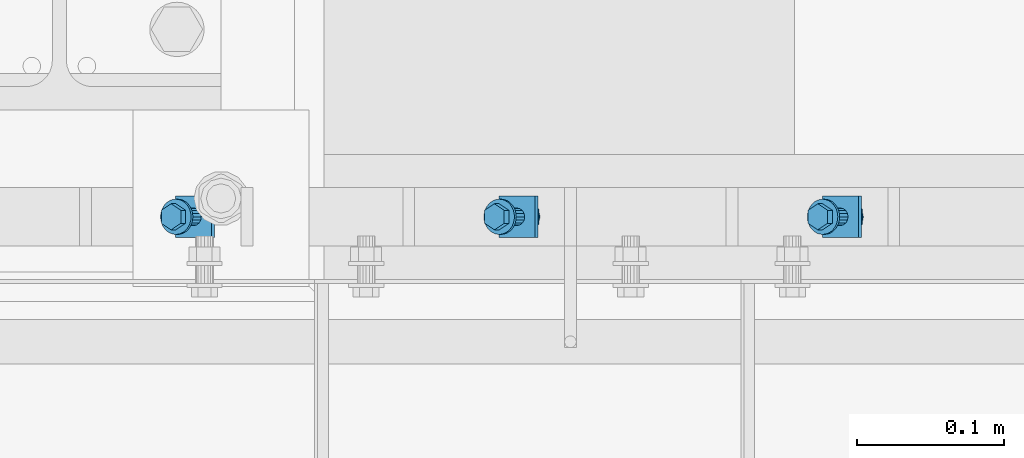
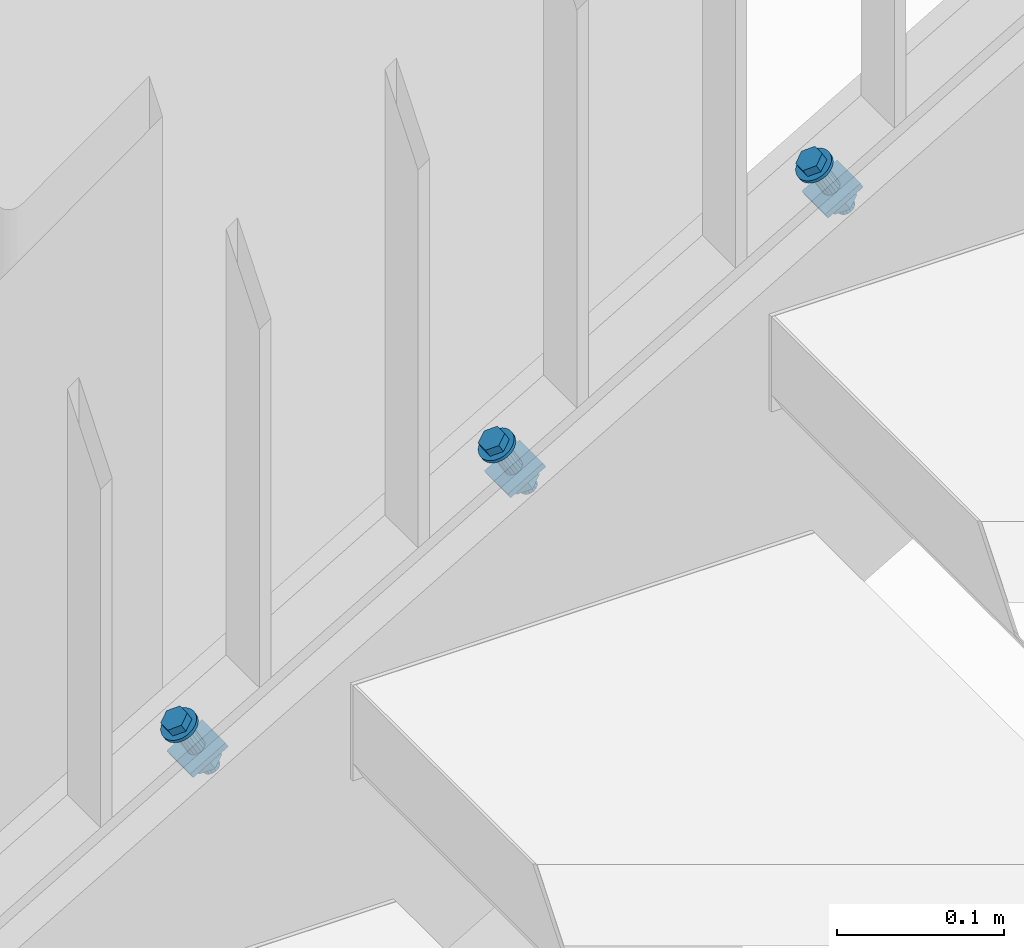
# One storey, part 58 of 145: 3 mechanical fasteners.
"""IFC2X3 building model written with IfcOpenShell, lengths in millimetres."""

from ifc_helpers import new_model, entity, si_unit, converted_unit, origin_with_axes, place, context, project, spatial, faceted_brep, element, save


model = new_model("IFC2X3")

# Units and contexts
model_context = context("Model", 3, precision=1e-09, world=origin_with_axes())
ifc_project = project(units=[si_unit("LENGTHUNIT", "METRE", prefix="MILLI"), si_unit("AREAUNIT", "SQUARE_METRE"), si_unit("VOLUMEUNIT", "CUBIC_METRE"), converted_unit("PLANEANGLEUNIT", "DEGREE", entity("IfcPlaneAngleMeasure", 0.01745329), si_unit("PLANEANGLEUNIT", "RADIAN"), dimensions=[0, 0, 0, 0, 0, 0, 0])], contexts=[model_context])

# Site, building, storey
site_placement = place(None, origin_with_axes())
site = spatial("IfcSite", under=ifc_project, at=site_placement, Name="BZ1 Grund- und Mittelschule 85716 Unterschlei?heim", CompositionType="ELEMENT")
building_placement = place(site_placement, origin_with_axes())
building = spatial("IfcBuilding", under=site, at=building_placement, Name="Struktur 1", CompositionType="ELEMENT")
storey_placement = place(building_placement, origin_with_axes())
storey = spatial("IfcBuildingStorey", under=building, at=storey_placement, Name="Default Storey", CompositionType="ELEMENT", Elevation=0.0)

# Mechanical fasteners
mechanical_fastener_1_placement = place(None, origin_with_axes())
element("IfcMechanicalFastener", 1, at=mechanical_fastener_1_placement, inside=storey, ObjectType="-", NominalDiameter=12.0, NominalLength=45.0, context=model_context, shape_type="Brep", body=[
    faceted_brep([(17140.949497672, -1877.502, 14.921854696), (17139.692769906, -1877.502, 17.083019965), (17139.892095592, -1875.160916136, 17.198928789), (17141.148823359, -1875.160916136, 15.03776352), (17140.482412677, -1872.909798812, 17.542200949), (17141.739140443, -1872.909798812, 15.38103568), (17141.441035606, -1870.835157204, 18.09964469), (17142.697763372, -1870.835157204, 15.938479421), (17142.731125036, -1869.016718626, 18.84983776), (17143.987852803, -1869.016718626, 16.688672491), (17144.303103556, -1867.524364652, 19.763950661), (17145.559831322, -1867.524364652, 17.602785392), (17146.096560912, -1866.41544561, 20.806854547), (17147.353288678, -1866.41544561, 18.645689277), (17148.042575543, -1865.732576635, 21.938471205), (17149.299303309, -1865.732576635, 19.777305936), (17150.066363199, -1865.502, 23.115313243), (17151.323090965, -1865.502, 20.954147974), (17152.090150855, -1865.732576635, 24.292155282), (17153.346878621, -1865.732576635, 22.130990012), (17154.036165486, -1866.41544561, 25.42377194), (17155.292893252, -1866.41544561, 23.262606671), (17155.829622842, -1867.524364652, 26.466675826), (17157.086350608, -1867.524364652, 24.305510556), (17157.401601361, -1869.016718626, 27.380788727), (17158.658329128, -1869.016718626, 25.219623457), (17158.691690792, -1870.835157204, 28.130981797), (17159.948418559, -1870.835157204, 25.969816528), (17159.650313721, -1872.909798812, 28.688425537), (17160.907041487, -1872.909798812, 26.527260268), (17160.240630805, -1875.160916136, 29.031697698), (17161.497358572, -1875.160916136, 26.870532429), (17160.439956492, -1877.502, 29.147606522), (17161.696684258, -1877.502, 26.986441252), (17160.240630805, -1879.843083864, 29.031697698), (17161.497358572, -1879.843083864, 26.870532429), (17159.650313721, -1882.094201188, 28.688425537), (17160.907041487, -1882.094201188, 26.527260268), (17158.691690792, -1884.168842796, 28.130981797), (17159.948418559, -1884.168842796, 25.969816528), (17157.401601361, -1885.987281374, 27.380788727), (17158.658329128, -1885.987281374, 25.219623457), (17155.829622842, -1887.479635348, 26.466675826), (17157.086350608, -1887.479635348, 24.305510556), (17154.036165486, -1888.58855439, 25.42377194), (17155.292893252, -1888.58855439, 23.262606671), (17152.090150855, -1889.271423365, 24.292155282), (17153.346878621, -1889.271423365, 22.130990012), (17150.066363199, -1889.502, 23.115313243), (17151.323090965, -1889.502, 20.954147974), (17148.042575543, -1889.271423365, 21.938471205), (17149.299303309, -1889.271423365, 19.777305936), (17146.096560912, -1888.58855439, 20.806854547), (17147.353288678, -1888.58855439, 18.645689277), (17144.303103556, -1887.479635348, 19.763950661), (17145.559831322, -1887.479635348, 17.602785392), (17142.731125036, -1885.987281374, 18.84983776), (17143.987852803, -1885.987281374, 16.688672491), (17141.441035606, -1884.168842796, 18.09964469), (17142.697763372, -1884.168842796, 15.938479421), (17140.482412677, -1882.094201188, 17.542200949), (17141.739140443, -1882.094201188, 15.38103568), (17139.892095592, -1879.843083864, 17.198928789), (17141.148823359, -1879.843083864, 15.03776352)], [[[0, 1, 2, 3]], [[3, 2, 4, 5]], [[5, 4, 6, 7]], [[7, 6, 8, 9]], [[9, 8, 10, 11]], [[11, 10, 12, 13]], [[13, 12, 14, 15]], [[15, 14, 16, 17]], [[17, 16, 18, 19]], [[19, 18, 20, 21]], [[21, 20, 22, 23]], [[23, 22, 24, 25]], [[25, 24, 26, 27]], [[27, 26, 28, 29]], [[29, 28, 30, 31]], [[31, 30, 32, 33]], [[33, 32, 34, 35]], [[35, 34, 36, 37]], [[37, 36, 38, 39]], [[39, 38, 40, 41]], [[41, 40, 42, 43]], [[43, 42, 44, 45]], [[45, 44, 46, 47]], [[47, 46, 48, 49]], [[49, 48, 50, 51]], [[51, 50, 52, 53]], [[53, 52, 54, 55]], [[55, 54, 56, 57]], [[57, 56, 58, 59]], [[59, 58, 60, 61]], [[61, 60, 62, 63]], [[63, 62, 1, 0]], [[2, 1, 62, 60, 58, 56, 54, 52, 50, 48, 46, 44, 42, 40, 38, 36, 34, 32, 30, 28, 26, 24, 22, 20, 18, 16, 14, 12, 10, 8, 6, 4]], [[63, 0, 3, 5, 7, 9, 11, 13, 15, 17, 19, 21, 23, 25, 27, 29, 31, 33, 35, 37, 39, 41, 43, 45, 47, 49, 51, 53, 55, 57, 59, 61]]]),
    faceted_brep([(17153.500891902, -1873.0595, 32.515921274), (17156.718114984, -1873.0595, 26.983338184), (17150.066363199, -1868.617, 23.115313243), (17146.849140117, -1868.617, 28.647896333), (17143.414611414, -1873.0595, 19.247288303), (17140.197388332, -1873.0595, 24.779871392), (17143.414611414, -1881.9445, 19.247288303), (17140.197388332, -1881.9445, 24.779871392), (17150.066363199, -1886.387, 23.115313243), (17146.849140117, -1886.387, 28.647896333), (17156.718114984, -1881.9445, 26.983338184), (17153.500891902, -1881.9445, 32.515921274)], [[[0, 1, 2, 3]], [[3, 2, 4, 5]], [[5, 4, 6, 7]], [[7, 6, 8, 9]], [[9, 8, 10, 11]], [[11, 10, 1, 0]], [[3, 5, 7, 9, 11, 0]], [[2, 1, 10, 8, 6, 4]]]),
    faceted_brep([(17157.036056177, -1877.502, -0.806063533), (17146.136294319, -1877.502, 17.938001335), (17146.531115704, -1875.205899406, 18.167591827), (17157.430877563, -1875.205899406, -0.57647304), (17147.655471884, -1873.259359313, 18.821410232), (17158.555233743, -1873.259359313, 0.077345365), (17149.338189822, -1871.958722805, 19.799918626), (17160.23795168, -1871.958722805, 1.055853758), (17151.323090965, -1871.502, 20.954147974), (17162.222852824, -1871.502, 2.210083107), (17153.307992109, -1871.958722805, 22.108377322), (17164.207753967, -1871.958722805, 3.364312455), (17154.990710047, -1873.259359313, 23.086885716), (17165.890471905, -1873.259359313, 4.342820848), (17156.115066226, -1875.205899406, 23.740704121), (17167.014828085, -1875.205899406, 4.996639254), (17156.509887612, -1877.502, 23.970294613), (17167.40964947, -1877.502, 5.226229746), (17156.115066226, -1879.798100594, 23.740704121), (17167.014828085, -1879.798100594, 4.996639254), (17154.990710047, -1881.744640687, 23.086885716), (17165.890471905, -1881.744640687, 4.342820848), (17153.307992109, -1883.045277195, 22.108377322), (17164.207753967, -1883.045277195, 3.364312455), (17151.323090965, -1883.502, 20.954147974), (17162.222852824, -1883.502, 2.210083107), (17149.338189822, -1883.045277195, 19.799918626), (17160.23795168, -1883.045277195, 1.055853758), (17147.655471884, -1881.744640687, 18.821410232), (17158.555233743, -1881.744640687, 0.077345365), (17146.531115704, -1879.798100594, 18.167591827), (17157.430877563, -1879.798100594, -0.57647304)], [[[0, 1, 2, 3]], [[3, 2, 4, 5]], [[5, 4, 6, 7]], [[7, 6, 8, 9]], [[9, 8, 10, 11]], [[11, 10, 12, 13]], [[13, 12, 14, 15]], [[15, 14, 16, 17]], [[17, 16, 18, 19]], [[19, 18, 20, 21]], [[21, 20, 22, 23]], [[23, 22, 24, 25]], [[25, 24, 26, 27]], [[27, 26, 28, 29]], [[29, 28, 30, 31]], [[31, 30, 1, 0]], [[2, 1, 30, 28, 26, 24, 22, 20, 18, 16, 14, 12, 10, 8, 6, 4]], [[31, 0, 3, 5, 7, 9, 11, 13, 15, 17, 19, 21, 23, 25, 27, 29]]]),
    faceted_brep([(17174.448249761, -1863.359864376, 9.319208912), (17176.459014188, -1863.359864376, 5.861344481), (17152.008220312, -1863.359864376, -8.35690713), (17149.997455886, -1863.359864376, -4.899042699), (17152.008220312, -1891.644135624, -8.35690713), (17149.997455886, -1891.644135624, -4.899042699), (17176.459014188, -1891.644135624, 5.861344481), (17174.448249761, -1891.644135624, 9.319208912)], [[[0, 1, 2, 3]], [[3, 2, 4, 5]], [[5, 4, 6, 7]], [[7, 6, 1, 0]], [[3, 5, 7, 0]], [[2, 1, 6, 4]]]),
    faceted_brep([(17172.131870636, -1872.227, 3.345090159), (17177.158781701, -1872.227, -5.299570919), (17169.260528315, -1866.952, -9.892442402), (17164.23361725, -1866.952, -1.247781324), (17161.36227493, -1872.227, -14.485313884), (17156.335363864, -1872.227, -5.840652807), (17161.36227493, -1882.777, -14.485313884), (17156.335363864, -1882.777, -5.840652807), (17169.260528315, -1888.052, -9.892442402), (17164.23361725, -1888.052, -1.247781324), (17177.158781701, -1882.777, -5.299570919), (17172.131870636, -1882.777, 3.345090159)], [[[0, 1, 2, 3]], [[3, 2, 4, 5]], [[5, 4, 6, 7]], [[7, 6, 8, 9]], [[9, 8, 10, 11]], [[11, 10, 1, 0]], [[3, 5, 7, 9, 11, 0]], [[2, 1, 10, 8, 6, 4]]]),
    faceted_brep([(17167.500666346, -1877.502, -18.801808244), (17164.073731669, -1877.502, -12.908589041), (17164.468553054, -1875.205899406, -12.678998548), (17167.895487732, -1875.205899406, -18.572217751), (17165.592909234, -1873.259359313, -12.025180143), (17169.019843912, -1873.259359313, -17.918399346), (17167.275627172, -1871.958722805, -11.04667175), (17170.702561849, -1871.958722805, -16.939890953), (17169.260528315, -1871.502, -9.892442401), (17172.687462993, -1871.502, -15.785661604), (17171.245429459, -1871.958722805, -8.738213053), (17174.672364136, -1871.958722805, -14.631432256), (17172.928147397, -1873.259359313, -7.75970466), (17176.355082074, -1873.259359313, -13.652923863), (17174.052503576, -1875.205899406, -7.105886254), (17177.479438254, -1875.205899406, -12.999105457), (17174.447324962, -1877.502, -6.876295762), (17177.874259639, -1877.502, -12.769514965), (17174.052503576, -1879.798100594, -7.105886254), (17177.479438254, -1879.798100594, -12.999105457), (17172.928147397, -1881.744640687, -7.75970466), (17176.355082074, -1881.744640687, -13.652923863), (17171.245429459, -1883.045277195, -8.738213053), (17174.672364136, -1883.045277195, -14.631432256), (17169.260528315, -1883.502, -9.892442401), (17172.687462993, -1883.502, -15.785661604), (17167.275627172, -1883.045277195, -11.04667175), (17170.702561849, -1883.045277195, -16.939890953), (17165.592909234, -1881.744640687, -12.025180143), (17169.019843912, -1881.744640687, -17.918399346), (17164.468553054, -1879.798100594, -12.678998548), (17167.895487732, -1879.798100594, -18.572217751)], [[[0, 1, 2, 3]], [[3, 2, 4, 5]], [[5, 4, 6, 7]], [[7, 6, 8, 9]], [[9, 8, 10, 11]], [[11, 10, 12, 13]], [[13, 12, 14, 15]], [[15, 14, 16, 17]], [[17, 16, 18, 19]], [[19, 18, 20, 21]], [[21, 20, 22, 23]], [[23, 22, 24, 25]], [[25, 24, 26, 27]], [[27, 26, 28, 29]], [[29, 28, 30, 31]], [[31, 30, 1, 0]], [[2, 1, 30, 28, 26, 24, 22, 20, 18, 16, 14, 12, 10, 8, 6, 4]], [[31, 0, 3, 5, 7, 9, 11, 13, 15, 17, 19, 21, 23, 25, 27, 29]]]),
])
mechanical_fastener_2_placement = place(None, origin_with_axes())
element("IfcMechanicalFastener", 2, at=mechanical_fastener_2_placement, inside=storey, ObjectType="-", NominalDiameter=12.0, NominalLength=45.0, context=model_context, shape_type="Brep", body=[
    faceted_brep([(17360.950000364, -1877.502, 142.853181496), (17359.693272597, -1877.502, 145.014346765), (17359.892598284, -1875.160916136, 145.130255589), (17361.14932605, -1875.160916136, 142.96909032), (17360.482915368, -1872.909798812, 145.473527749), (17361.739643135, -1872.909798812, 143.31236248), (17361.441538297, -1870.835157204, 146.03097149), (17362.698266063, -1870.835157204, 143.869806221), (17362.731627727, -1869.016718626, 146.78116456), (17363.988355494, -1869.016718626, 144.619999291), (17364.303606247, -1867.524364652, 147.695277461), (17365.560334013, -1867.524364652, 145.534112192), (17366.097063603, -1866.41544561, 148.738181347), (17367.353791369, -1866.41544561, 146.577016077), (17368.043078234, -1865.732576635, 149.869798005), (17369.299806, -1865.732576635, 147.708632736), (17370.06686589, -1865.502, 151.046640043), (17371.323593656, -1865.502, 148.885474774), (17372.090653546, -1865.732576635, 152.223482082), (17373.347381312, -1865.732576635, 150.062316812), (17374.036668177, -1866.41544561, 153.35509874), (17375.293395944, -1866.41544561, 151.193933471), (17375.830125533, -1867.524364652, 154.398002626), (17377.086853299, -1867.524364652, 152.236837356), (17377.402104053, -1869.016718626, 155.312115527), (17378.658831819, -1869.016718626, 153.150950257), (17378.692193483, -1870.835157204, 156.062308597), (17379.94892125, -1870.835157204, 153.901143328), (17379.650816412, -1872.909798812, 156.619752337), (17380.907544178, -1872.909798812, 154.458587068), (17380.241133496, -1875.160916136, 156.963024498), (17381.497861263, -1875.160916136, 154.801859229), (17380.440459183, -1877.502, 157.078933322), (17381.697186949, -1877.502, 154.917768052), (17380.241133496, -1879.843083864, 156.963024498), (17381.497861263, -1879.843083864, 154.801859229), (17379.650816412, -1882.094201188, 156.619752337), (17380.907544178, -1882.094201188, 154.458587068), (17378.692193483, -1884.168842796, 156.062308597), (17379.94892125, -1884.168842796, 153.901143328), (17377.402104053, -1885.987281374, 155.312115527), (17378.658831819, -1885.987281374, 153.150950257), (17375.830125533, -1887.479635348, 154.398002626), (17377.086853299, -1887.479635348, 152.236837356), (17374.036668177, -1888.58855439, 153.35509874), (17375.293395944, -1888.58855439, 151.193933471), (17372.090653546, -1889.271423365, 152.223482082), (17373.347381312, -1889.271423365, 150.062316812), (17370.06686589, -1889.502, 151.046640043), (17371.323593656, -1889.502, 148.885474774), (17368.043078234, -1889.271423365, 149.869798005), (17369.299806, -1889.271423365, 147.708632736), (17366.097063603, -1888.58855439, 148.738181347), (17367.353791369, -1888.58855439, 146.577016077), (17364.303606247, -1887.479635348, 147.695277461), (17365.560334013, -1887.479635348, 145.534112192), (17362.731627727, -1885.987281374, 146.78116456), (17363.988355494, -1885.987281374, 144.619999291), (17361.441538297, -1884.168842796, 146.03097149), (17362.698266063, -1884.168842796, 143.869806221), (17360.482915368, -1882.094201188, 145.473527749), (17361.739643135, -1882.094201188, 143.31236248), (17359.892598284, -1879.843083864, 145.130255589), (17361.14932605, -1879.843083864, 142.96909032)], [[[0, 1, 2, 3]], [[3, 2, 4, 5]], [[5, 4, 6, 7]], [[7, 6, 8, 9]], [[9, 8, 10, 11]], [[11, 10, 12, 13]], [[13, 12, 14, 15]], [[15, 14, 16, 17]], [[17, 16, 18, 19]], [[19, 18, 20, 21]], [[21, 20, 22, 23]], [[23, 22, 24, 25]], [[25, 24, 26, 27]], [[27, 26, 28, 29]], [[29, 28, 30, 31]], [[31, 30, 32, 33]], [[33, 32, 34, 35]], [[35, 34, 36, 37]], [[37, 36, 38, 39]], [[39, 38, 40, 41]], [[41, 40, 42, 43]], [[43, 42, 44, 45]], [[45, 44, 46, 47]], [[47, 46, 48, 49]], [[49, 48, 50, 51]], [[51, 50, 52, 53]], [[53, 52, 54, 55]], [[55, 54, 56, 57]], [[57, 56, 58, 59]], [[59, 58, 60, 61]], [[61, 60, 62, 63]], [[63, 62, 1, 0]], [[2, 1, 62, 60, 58, 56, 54, 52, 50, 48, 46, 44, 42, 40, 38, 36, 34, 32, 30, 28, 26, 24, 22, 20, 18, 16, 14, 12, 10, 8, 6, 4]], [[63, 0, 3, 5, 7, 9, 11, 13, 15, 17, 19, 21, 23, 25, 27, 29, 31, 33, 35, 37, 39, 41, 43, 45, 47, 49, 51, 53, 55, 57, 59, 61]]]),
    faceted_brep([(17373.501394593, -1873.0595, 160.447248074), (17376.718617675, -1873.0595, 154.914664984), (17370.06686589, -1868.617, 151.046640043), (17366.849642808, -1868.617, 156.579223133), (17363.415114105, -1873.0595, 147.178615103), (17360.197891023, -1873.0595, 152.711198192), (17363.415114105, -1881.9445, 147.178615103), (17360.197891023, -1881.9445, 152.711198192), (17370.06686589, -1886.387, 151.046640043), (17366.849642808, -1886.387, 156.579223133), (17376.718617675, -1881.9445, 154.914664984), (17373.501394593, -1881.9445, 160.447248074)], [[[0, 1, 2, 3]], [[3, 2, 4, 5]], [[5, 4, 6, 7]], [[7, 6, 8, 9]], [[9, 8, 10, 11]], [[11, 10, 1, 0]], [[3, 5, 7, 9, 11, 0]], [[2, 1, 10, 8, 6, 4]]]),
    faceted_brep([(17377.036558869, -1877.502, 127.125263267), (17366.13679701, -1877.502, 145.869328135), (17366.531618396, -1875.205899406, 146.098918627), (17377.431380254, -1875.205899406, 127.35485376), (17367.655974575, -1873.259359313, 146.752737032), (17378.555736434, -1873.259359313, 128.008672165), (17369.338692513, -1871.958722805, 147.731245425), (17380.238454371, -1871.958722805, 128.987180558), (17371.323593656, -1871.502, 148.885474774), (17382.223355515, -1871.502, 130.141409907), (17373.3084948, -1871.958722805, 150.039704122), (17384.208256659, -1871.958722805, 131.295639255), (17374.991212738, -1873.259359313, 151.018212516), (17385.890974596, -1873.259359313, 132.274147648), (17376.115568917, -1875.205899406, 151.672030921), (17387.015330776, -1875.205899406, 132.927966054), (17376.510390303, -1877.502, 151.901621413), (17387.410152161, -1877.502, 133.157556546), (17376.115568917, -1879.798100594, 151.672030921), (17387.015330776, -1879.798100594, 132.927966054), (17374.991212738, -1881.744640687, 151.018212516), (17385.890974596, -1881.744640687, 132.274147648), (17373.3084948, -1883.045277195, 150.039704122), (17384.208256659, -1883.045277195, 131.295639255), (17371.323593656, -1883.502, 148.885474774), (17382.223355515, -1883.502, 130.141409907), (17369.338692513, -1883.045277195, 147.731245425), (17380.238454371, -1883.045277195, 128.987180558), (17367.655974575, -1881.744640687, 146.752737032), (17378.555736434, -1881.744640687, 128.008672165), (17366.531618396, -1879.798100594, 146.098918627), (17377.431380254, -1879.798100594, 127.35485376)], [[[0, 1, 2, 3]], [[3, 2, 4, 5]], [[5, 4, 6, 7]], [[7, 6, 8, 9]], [[9, 8, 10, 11]], [[11, 10, 12, 13]], [[13, 12, 14, 15]], [[15, 14, 16, 17]], [[17, 16, 18, 19]], [[19, 18, 20, 21]], [[21, 20, 22, 23]], [[23, 22, 24, 25]], [[25, 24, 26, 27]], [[27, 26, 28, 29]], [[29, 28, 30, 31]], [[31, 30, 1, 0]], [[2, 1, 30, 28, 26, 24, 22, 20, 18, 16, 14, 12, 10, 8, 6, 4]], [[31, 0, 3, 5, 7, 9, 11, 13, 15, 17, 19, 21, 23, 25, 27, 29]]]),
    faceted_brep([(17394.448752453, -1863.359864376, 137.250535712), (17396.459516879, -1863.359864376, 133.792671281), (17372.008723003, -1863.359864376, 119.57441967), (17369.997958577, -1863.359864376, 123.032284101), (17372.008723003, -1891.644135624, 119.57441967), (17369.997958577, -1891.644135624, 123.032284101), (17396.459516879, -1891.644135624, 133.792671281), (17394.448752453, -1891.644135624, 137.250535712)], [[[0, 1, 2, 3]], [[3, 2, 4, 5]], [[5, 4, 6, 7]], [[7, 6, 1, 0]], [[3, 5, 7, 0]], [[2, 1, 6, 4]]]),
    faceted_brep([(17392.132373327, -1872.227, 131.276416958), (17397.159284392, -1872.227, 122.631755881), (17389.261031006, -1866.952, 118.038884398), (17384.234119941, -1866.952, 126.683545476), (17381.362777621, -1872.227, 113.446012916), (17376.335866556, -1872.227, 122.090673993), (17381.362777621, -1882.777, 113.446012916), (17376.335866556, -1882.777, 122.090673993), (17389.261031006, -1888.052, 118.038884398), (17384.234119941, -1888.052, 126.683545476), (17397.159284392, -1882.777, 122.631755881), (17392.132373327, -1882.777, 131.276416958)], [[[0, 1, 2, 3]], [[3, 2, 4, 5]], [[5, 4, 6, 7]], [[7, 6, 8, 9]], [[9, 8, 10, 11]], [[11, 10, 1, 0]], [[3, 5, 7, 9, 11, 0]], [[2, 1, 10, 8, 6, 4]]]),
    faceted_brep([(17387.501169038, -1877.502, 109.129518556), (17384.07423436, -1877.502, 115.022737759), (17384.469055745, -1875.205899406, 115.252328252), (17387.895990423, -1875.205899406, 109.359109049), (17385.593411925, -1873.259359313, 115.906146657), (17389.020346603, -1873.259359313, 110.012927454), (17387.276129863, -1871.958722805, 116.88465505), (17390.70306454, -1871.958722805, 110.991435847), (17389.261031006, -1871.502, 118.038884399), (17392.687965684, -1871.502, 112.145665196), (17391.24593215, -1871.958722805, 119.193113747), (17394.672866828, -1871.958722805, 113.299894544), (17392.928650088, -1873.259359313, 120.17162214), (17396.355584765, -1873.259359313, 114.278402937), (17394.053006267, -1875.205899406, 120.825440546), (17397.479940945, -1875.205899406, 114.932221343), (17394.447827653, -1877.502, 121.055031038), (17397.87476233, -1877.502, 115.161811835), (17394.053006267, -1879.798100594, 120.825440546), (17397.479940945, -1879.798100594, 114.932221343), (17392.928650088, -1881.744640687, 120.17162214), (17396.355584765, -1881.744640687, 114.278402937), (17391.24593215, -1883.045277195, 119.193113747), (17394.672866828, -1883.045277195, 113.299894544), (17389.261031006, -1883.502, 118.038884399), (17392.687965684, -1883.502, 112.145665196), (17387.276129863, -1883.045277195, 116.88465505), (17390.70306454, -1883.045277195, 110.991435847), (17385.593411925, -1881.744640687, 115.906146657), (17389.020346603, -1881.744640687, 110.012927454), (17384.469055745, -1879.798100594, 115.252328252), (17387.895990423, -1879.798100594, 109.359109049)], [[[0, 1, 2, 3]], [[3, 2, 4, 5]], [[5, 4, 6, 7]], [[7, 6, 8, 9]], [[9, 8, 10, 11]], [[11, 10, 12, 13]], [[13, 12, 14, 15]], [[15, 14, 16, 17]], [[17, 16, 18, 19]], [[19, 18, 20, 21]], [[21, 20, 22, 23]], [[23, 22, 24, 25]], [[25, 24, 26, 27]], [[27, 26, 28, 29]], [[29, 28, 30, 31]], [[31, 30, 1, 0]], [[2, 1, 30, 28, 26, 24, 22, 20, 18, 16, 14, 12, 10, 8, 6, 4]], [[31, 0, 3, 5, 7, 9, 11, 13, 15, 17, 19, 21, 23, 25, 27, 29]]]),
])
mechanical_fastener_3_placement = place(None, origin_with_axes())
element("IfcMechanicalFastener", 3, at=mechanical_fastener_3_placement, inside=storey, ObjectType="-", NominalDiameter=12.0, NominalLength=45.0, context=model_context, shape_type="Brep", body=[
    faceted_brep([(17580.950000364, -1877.502, 270.784215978), (17579.693272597, -1877.502, 272.945381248), (17579.892598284, -1875.160916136, 273.061290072), (17581.14932605, -1875.160916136, 270.900124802), (17580.482915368, -1872.909798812, 273.404562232), (17581.739643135, -1872.909798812, 271.243396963), (17581.441538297, -1870.835157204, 273.962005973), (17582.698266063, -1870.835157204, 271.800840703), (17582.731627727, -1869.016718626, 274.712199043), (17583.988355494, -1869.016718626, 272.551033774), (17584.303606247, -1867.524364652, 275.626311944), (17585.560334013, -1867.524364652, 273.465146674), (17586.097063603, -1866.41544561, 276.669215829), (17587.353791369, -1866.41544561, 274.50805056), (17588.043078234, -1865.732576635, 277.800832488), (17589.299806, -1865.732576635, 275.639667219), (17590.06686589, -1865.502, 278.977674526), (17591.323593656, -1865.502, 276.816509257), (17592.090653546, -1865.732576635, 280.154516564), (17593.347381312, -1865.732576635, 277.993351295), (17594.036668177, -1866.41544561, 281.286133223), (17595.293395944, -1866.41544561, 279.124967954), (17595.830125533, -1867.524364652, 282.329037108), (17597.086853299, -1867.524364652, 280.167871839), (17597.402104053, -1869.016718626, 283.243150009), (17598.658831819, -1869.016718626, 281.08198474), (17598.692193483, -1870.835157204, 283.99334308), (17599.94892125, -1870.835157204, 281.83217781), (17599.650816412, -1872.909798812, 284.55078682), (17600.907544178, -1872.909798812, 282.389621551), (17600.241133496, -1875.160916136, 284.894058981), (17601.497861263, -1875.160916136, 282.732893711), (17600.440459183, -1877.502, 285.009967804), (17601.697186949, -1877.502, 282.848802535), (17600.241133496, -1879.843083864, 284.894058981), (17601.497861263, -1879.843083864, 282.732893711), (17599.650816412, -1882.094201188, 284.55078682), (17600.907544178, -1882.094201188, 282.389621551), (17598.692193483, -1884.168842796, 283.99334308), (17599.94892125, -1884.168842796, 281.83217781), (17597.402104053, -1885.987281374, 283.243150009), (17598.658831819, -1885.987281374, 281.08198474), (17595.830125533, -1887.479635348, 282.329037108), (17597.086853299, -1887.479635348, 280.167871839), (17594.036668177, -1888.58855439, 281.286133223), (17595.293395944, -1888.58855439, 279.124967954), (17592.090653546, -1889.271423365, 280.154516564), (17593.347381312, -1889.271423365, 277.993351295), (17590.06686589, -1889.502, 278.977674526), (17591.323593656, -1889.502, 276.816509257), (17588.043078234, -1889.271423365, 277.800832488), (17589.299806, -1889.271423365, 275.639667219), (17586.097063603, -1888.58855439, 276.669215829), (17587.353791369, -1888.58855439, 274.50805056), (17584.303606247, -1887.479635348, 275.626311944), (17585.560334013, -1887.479635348, 273.465146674), (17582.731627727, -1885.987281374, 274.712199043), (17583.988355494, -1885.987281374, 272.551033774), (17581.441538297, -1884.168842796, 273.962005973), (17582.698266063, -1884.168842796, 271.800840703), (17580.482915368, -1882.094201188, 273.404562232), (17581.739643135, -1882.094201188, 271.243396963), (17579.892598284, -1879.843083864, 273.061290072), (17581.14932605, -1879.843083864, 270.900124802)], [[[0, 1, 2, 3]], [[3, 2, 4, 5]], [[5, 4, 6, 7]], [[7, 6, 8, 9]], [[9, 8, 10, 11]], [[11, 10, 12, 13]], [[13, 12, 14, 15]], [[15, 14, 16, 17]], [[17, 16, 18, 19]], [[19, 18, 20, 21]], [[21, 20, 22, 23]], [[23, 22, 24, 25]], [[25, 24, 26, 27]], [[27, 26, 28, 29]], [[29, 28, 30, 31]], [[31, 30, 32, 33]], [[33, 32, 34, 35]], [[35, 34, 36, 37]], [[37, 36, 38, 39]], [[39, 38, 40, 41]], [[41, 40, 42, 43]], [[43, 42, 44, 45]], [[45, 44, 46, 47]], [[47, 46, 48, 49]], [[49, 48, 50, 51]], [[51, 50, 52, 53]], [[53, 52, 54, 55]], [[55, 54, 56, 57]], [[57, 56, 58, 59]], [[59, 58, 60, 61]], [[61, 60, 62, 63]], [[63, 62, 1, 0]], [[2, 1, 62, 60, 58, 56, 54, 52, 50, 48, 46, 44, 42, 40, 38, 36, 34, 32, 30, 28, 26, 24, 22, 20, 18, 16, 14, 12, 10, 8, 6, 4]], [[63, 0, 3, 5, 7, 9, 11, 13, 15, 17, 19, 21, 23, 25, 27, 29, 31, 33, 35, 37, 39, 41, 43, 45, 47, 49, 51, 53, 55, 57, 59, 61]]]),
    faceted_brep([(17593.501394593, -1873.0595, 288.378282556), (17596.718617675, -1873.0595, 282.845699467), (17590.06686589, -1868.617, 278.977674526), (17586.849642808, -1868.617, 284.510257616), (17583.415114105, -1873.0595, 275.109649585), (17580.197891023, -1873.0595, 280.642232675), (17583.415114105, -1881.9445, 275.109649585), (17580.197891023, -1881.9445, 280.642232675), (17590.06686589, -1886.387, 278.977674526), (17586.849642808, -1886.387, 284.510257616), (17596.718617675, -1881.9445, 282.845699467), (17593.501394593, -1881.9445, 288.378282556)], [[[0, 1, 2, 3]], [[3, 2, 4, 5]], [[5, 4, 6, 7]], [[7, 6, 8, 9]], [[9, 8, 10, 11]], [[11, 10, 1, 0]], [[3, 5, 7, 9, 11, 0]], [[2, 1, 10, 8, 6, 4]]]),
    faceted_brep([(17597.036558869, -1877.502, 255.05629775), (17586.13679701, -1877.502, 273.800362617), (17586.531618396, -1875.205899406, 274.02995311), (17597.431380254, -1875.205899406, 255.285888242), (17587.655974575, -1873.259359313, 274.683771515), (17598.555736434, -1873.259359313, 255.939706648), (17589.338692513, -1871.958722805, 275.662279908), (17600.238454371, -1871.958722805, 256.918215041), (17591.323593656, -1871.502, 276.816509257), (17602.223355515, -1871.502, 258.072444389), (17593.3084948, -1871.958722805, 277.970738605), (17604.208256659, -1871.958722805, 259.226673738), (17594.991212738, -1873.259359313, 278.949246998), (17605.890974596, -1873.259359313, 260.205182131), (17596.115568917, -1875.205899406, 279.603065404), (17607.015330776, -1875.205899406, 260.859000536), (17596.510390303, -1877.502, 279.832655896), (17607.410152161, -1877.502, 261.088591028), (17596.115568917, -1879.798100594, 279.603065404), (17607.015330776, -1879.798100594, 260.859000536), (17594.991212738, -1881.744640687, 278.949246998), (17605.890974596, -1881.744640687, 260.205182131), (17593.3084948, -1883.045277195, 277.970738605), (17604.208256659, -1883.045277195, 259.226673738), (17591.323593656, -1883.502, 276.816509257), (17602.223355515, -1883.502, 258.072444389), (17589.338692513, -1883.045277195, 275.662279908), (17600.238454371, -1883.045277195, 256.918215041), (17587.655974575, -1881.744640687, 274.683771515), (17598.555736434, -1881.744640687, 255.939706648), (17586.531618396, -1879.798100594, 274.02995311), (17597.431380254, -1879.798100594, 255.285888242)], [[[0, 1, 2, 3]], [[3, 2, 4, 5]], [[5, 4, 6, 7]], [[7, 6, 8, 9]], [[9, 8, 10, 11]], [[11, 10, 12, 13]], [[13, 12, 14, 15]], [[15, 14, 16, 17]], [[17, 16, 18, 19]], [[19, 18, 20, 21]], [[21, 20, 22, 23]], [[23, 22, 24, 25]], [[25, 24, 26, 27]], [[27, 26, 28, 29]], [[29, 28, 30, 31]], [[31, 30, 1, 0]], [[2, 1, 30, 28, 26, 24, 22, 20, 18, 16, 14, 12, 10, 8, 6, 4]], [[31, 0, 3, 5, 7, 9, 11, 13, 15, 17, 19, 21, 23, 25, 27, 29]]]),
    faceted_brep([(17614.448752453, -1863.359864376, 265.181570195), (17616.459516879, -1863.359864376, 261.723705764), (17592.008723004, -1863.359864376, 247.505454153), (17589.997958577, -1863.359864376, 250.963318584), (17592.008723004, -1891.644135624, 247.505454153), (17589.997958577, -1891.644135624, 250.963318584), (17616.459516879, -1891.644135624, 261.723705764), (17614.448752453, -1891.644135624, 265.181570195)], [[[0, 1, 2, 3]], [[3, 2, 4, 5]], [[5, 4, 6, 7]], [[7, 6, 1, 0]], [[3, 5, 7, 0]], [[2, 1, 6, 4]]]),
    faceted_brep([(17612.132373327, -1872.227, 259.207451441), (17617.159284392, -1872.227, 250.562790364), (17609.261031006, -1866.952, 245.969918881), (17604.234119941, -1866.952, 254.614579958), (17601.362777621, -1872.227, 241.377047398), (17596.335866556, -1872.227, 250.021708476), (17601.362777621, -1882.777, 241.377047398), (17596.335866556, -1882.777, 250.021708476), (17609.261031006, -1888.052, 245.969918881), (17604.234119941, -1888.052, 254.614579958), (17617.159284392, -1882.777, 250.562790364), (17612.132373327, -1882.777, 259.207451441)], [[[0, 1, 2, 3]], [[3, 2, 4, 5]], [[5, 4, 6, 7]], [[7, 6, 8, 9]], [[9, 8, 10, 11]], [[11, 10, 1, 0]], [[3, 5, 7, 9, 11, 0]], [[2, 1, 10, 8, 6, 4]]]),
    faceted_brep([(17607.501169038, -1877.502, 237.060553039), (17604.07423436, -1877.502, 242.953772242), (17604.469055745, -1875.205899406, 243.183362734), (17607.895990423, -1875.205899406, 237.290143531), (17605.593411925, -1873.259359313, 243.83718114), (17609.020346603, -1873.259359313, 237.943961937), (17607.276129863, -1871.958722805, 244.815689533), (17610.70306454, -1871.958722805, 238.92247033), (17609.261031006, -1871.502, 245.969918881), (17612.687965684, -1871.502, 240.076699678), (17611.24593215, -1871.958722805, 247.12414823), (17614.672866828, -1871.958722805, 241.230929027), (17612.928650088, -1873.259359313, 248.102656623), (17616.355584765, -1873.259359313, 242.20943742), (17614.053006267, -1875.205899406, 248.756475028), (17617.479940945, -1875.205899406, 242.863255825), (17614.447827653, -1877.502, 248.98606552), (17617.87476233, -1877.502, 243.092846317), (17614.053006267, -1879.798100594, 248.756475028), (17617.479940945, -1879.798100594, 242.863255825), (17612.928650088, -1881.744640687, 248.102656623), (17616.355584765, -1881.744640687, 242.20943742), (17611.24593215, -1883.045277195, 247.12414823), (17614.672866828, -1883.045277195, 241.230929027), (17609.261031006, -1883.502, 245.969918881), (17612.687965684, -1883.502, 240.076699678), (17607.276129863, -1883.045277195, 244.815689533), (17610.70306454, -1883.045277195, 238.92247033), (17605.593411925, -1881.744640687, 243.83718114), (17609.020346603, -1881.744640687, 237.943961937), (17604.469055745, -1879.798100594, 243.183362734), (17607.895990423, -1879.798100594, 237.290143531)], [[[0, 1, 2, 3]], [[3, 2, 4, 5]], [[5, 4, 6, 7]], [[7, 6, 8, 9]], [[9, 8, 10, 11]], [[11, 10, 12, 13]], [[13, 12, 14, 15]], [[15, 14, 16, 17]], [[17, 16, 18, 19]], [[19, 18, 20, 21]], [[21, 20, 22, 23]], [[23, 22, 24, 25]], [[25, 24, 26, 27]], [[27, 26, 28, 29]], [[29, 28, 30, 31]], [[31, 30, 1, 0]], [[2, 1, 30, 28, 26, 24, 22, 20, 18, 16, 14, 12, 10, 8, 6, 4]], [[31, 0, 3, 5, 7, 9, 11, 13, 15, 17, 19, 21, 23, 25, 27, 29]]]),
])

save(model, "model.ifc")
